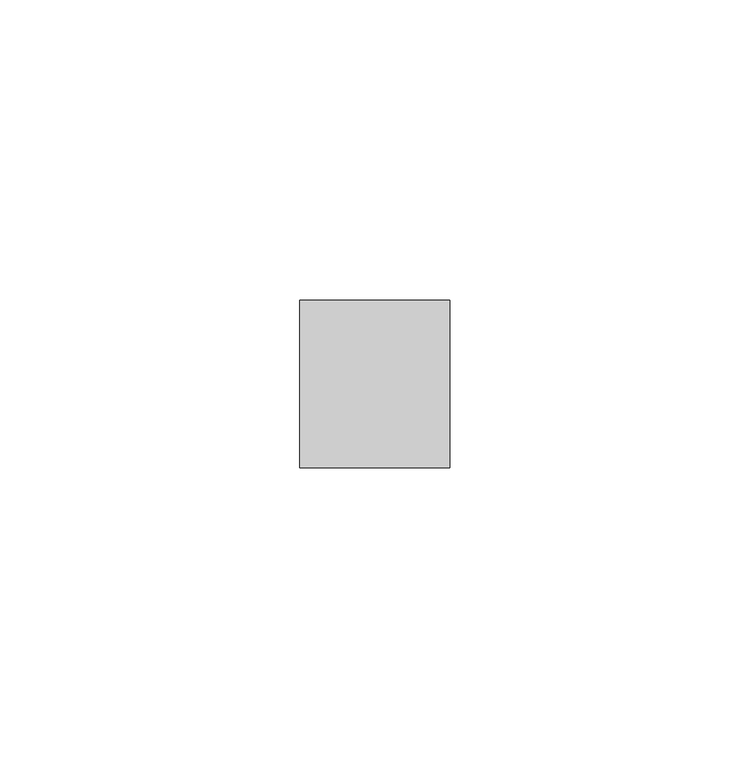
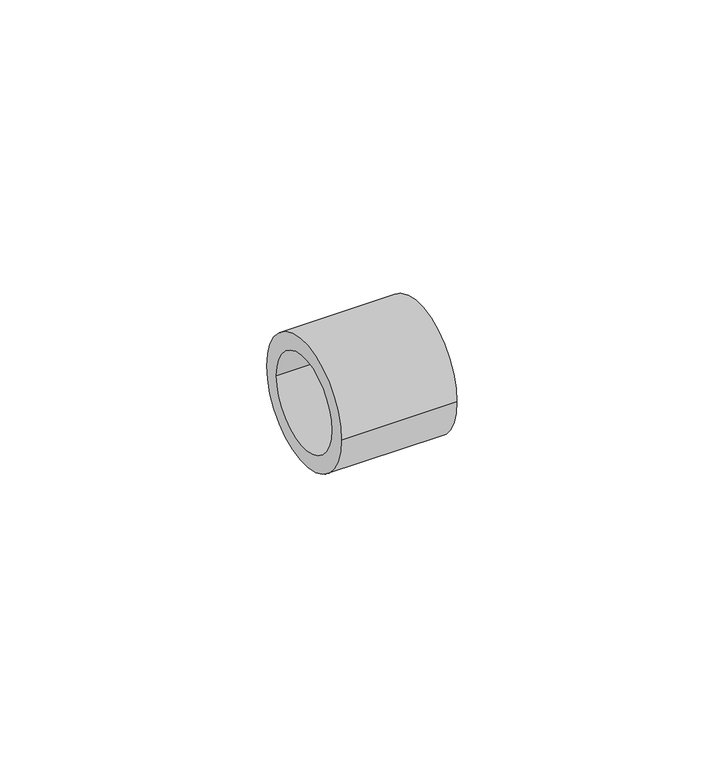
"""IFC4 building model written with IfcOpenShell, lengths in millimetres: pipe fitting geometry, REHAU_RAUTITAN_Sleeve_PX : REHAU_RAUTITAN_Sleeve_PX."""

from ifc_helpers import new_model, si_unit, point, frame, origin, origin_2d, place, context, project, spatial, circle_curve, trimmed, segment, composite_curve, outline, extrude, source, transform, mapped, element, save


def pipe_fitting_785edea0(model_context):
    return source(origin(), model_context, "Body", "SweptSolid", [
        extrude(outline(composite_curve([segment(trimmed(circle_curve(origin_2d(), 14.0), [point((-14.0, 0.0))], [point((14.0, 0.0))], False, "CARTESIAN"), True, "CONTINUOUS"), segment(trimmed(circle_curve(origin_2d(), 14.0), [point((14.0, 0.0))], [point((-14.0, 0.0))], False, "CARTESIAN"), True, "CONTINUOUS")], self_intersect=False), holes=[composite_curve([segment(trimmed(circle_curve(origin_2d(), 10.35), [point((-10.35, 0.0))], [point((10.35, 0.0))], True, "CARTESIAN"), True, "CONTINUOUS"), segment(trimmed(circle_curve(origin_2d(), 10.35), [point((10.35, 0.0))], [point((-10.35, 0.0))], True, "CARTESIAN"), True, "CONTINUOUS")], self_intersect=False)]), frame((0.0, 0.0, 0.0), z_axis=(1.0, 0.0, 0.0), x_axis=(0.0, 1.0, 0.0)), (0.0, 0.0, 1.0), 25.0),
    ])


if __name__ == "__main__":
    model = new_model("IFC4")
    model_context = context("Model", 3, world=origin())
    ifc_project = project(units=[si_unit("LENGTHUNIT", "METRE", prefix="MILLI")], contexts=[model_context])
    site = spatial("IfcSite", under=ifc_project)
    building = spatial("IfcBuilding", under=site)
    placement = place(None, origin())
    pipe_fitting_shape = pipe_fitting_785edea0(model_context)
    element("IfcPipeFitting", 1, ObjectType="REHAU_RAUTITAN_Sleeve_PX : REHAU_RAUTITAN_Sleeve_PX", at=placement, inside=building, context=model_context, shape_type="MappedRepresentation", body=[
        mapped(pipe_fitting_shape, transform((0.0, 0.0, 0.0), x_axis=(1.0, 0.0, 0.0), y_axis=(0.0, 1.0, 0.0), z_axis=(0.0, 0.0, 1.0))),
    ])
    save(model, "model.ifc")
